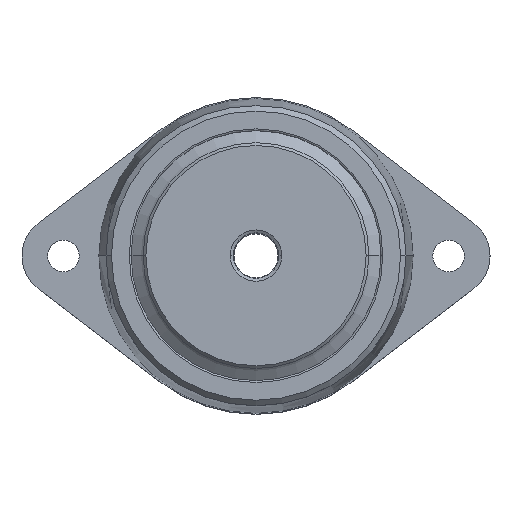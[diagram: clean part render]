
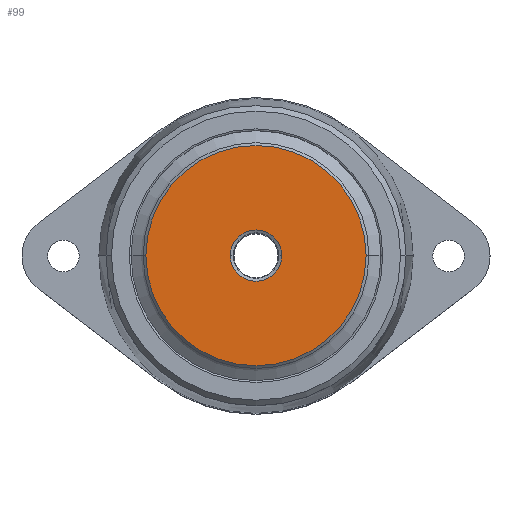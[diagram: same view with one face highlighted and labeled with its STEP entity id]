
A CAD part, top view. The second image highlights one B-rep face of the part: STEP entity #99.
In plain terms, the highlighted planar face has unit normal (0, 0, 1).
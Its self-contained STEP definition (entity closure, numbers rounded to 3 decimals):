
#99=ADVANCED_FACE('',(#226,#227),#228,.T.);
#226=FACE_BOUND('',#396,.T.);
#227=FACE_OUTER_BOUND('',#397,.T.);
#228=PLANE('',#398);
#396=EDGE_LOOP('',(#869,#870));
#397=EDGE_LOOP('',(#871,#872));
#398=AXIS2_PLACEMENT_3D('',#873,#874,#875);
#869=ORIENTED_EDGE('',*,*,#1150,.F.);
#870=ORIENTED_EDGE('',*,*,#1054,.F.);
#871=ORIENTED_EDGE('',*,*,#1050,.T.);
#872=ORIENTED_EDGE('',*,*,#1151,.T.);
#873=CARTESIAN_POINT('',(24.665,0.0,100.0));
#874=DIRECTION('',(0.0,0.,1.0));
#875=DIRECTION('',(1.0,0.0,0.0));
#1050=EDGE_CURVE('',#1400,#1402,#1404,.T.);
#1054=EDGE_CURVE('',#1410,#1406,#1412,.T.);
#1150=EDGE_CURVE('',#1406,#1410,#1562,.T.);
#1151=EDGE_CURVE('',#1402,#1400,#1563,.T.);
#1400=VERTEX_POINT('',#1690);
#1402=VERTEX_POINT('',#1693);
#1404=CIRCLE('',#1696,40.0);
#1406=VERTEX_POINT('',#1698);
#1410=VERTEX_POINT('',#1703);
#1412=CIRCLE('',#1706,9.33);
#1562=CIRCLE('',#1898,9.33);
#1563=CIRCLE('',#1899,40.0);
#1690=CARTESIAN_POINT('',(40.0,0.0,100.0));
#1693=CARTESIAN_POINT('',(-40.0,0.,100.0));
#1696=AXIS2_PLACEMENT_3D('',#2062,#2063,#2064);
#1698=CARTESIAN_POINT('',(9.33,0.0,100.0));
#1703=CARTESIAN_POINT('',(-9.33,0.,100.0));
#1706=AXIS2_PLACEMENT_3D('',#2070,#2071,#2072);
#1898=AXIS2_PLACEMENT_3D('',#2274,#2275,#2276);
#1899=AXIS2_PLACEMENT_3D('',#2277,#2278,#2279);
#2062=CARTESIAN_POINT('',(0.0,0.0,100.0));
#2063=DIRECTION('',(0.,0.,1.0));
#2064=DIRECTION('',(1.0,0.,0.0));
#2070=CARTESIAN_POINT('',(0.0,0.0,100.0));
#2071=DIRECTION('',(0.,0.,1.0));
#2072=DIRECTION('',(1.0,0.,0.0));
#2274=CARTESIAN_POINT('',(0.0,0.0,100.0));
#2275=DIRECTION('',(0.,0.,1.0));
#2276=DIRECTION('',(1.0,0.,0.0));
#2277=CARTESIAN_POINT('',(0.0,0.0,100.0));
#2278=DIRECTION('',(0.,0.,1.0));
#2279=DIRECTION('',(1.0,0.,0.0));
